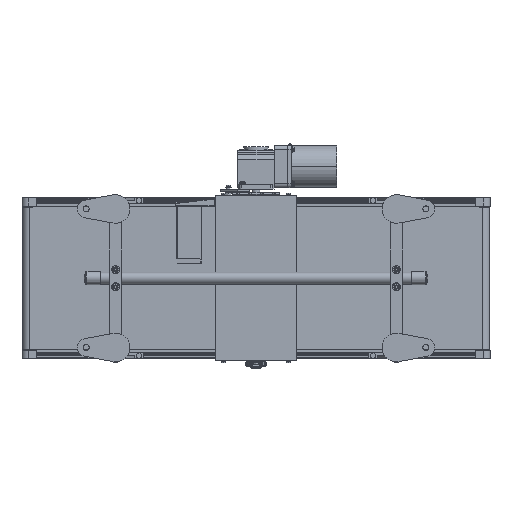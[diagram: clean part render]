
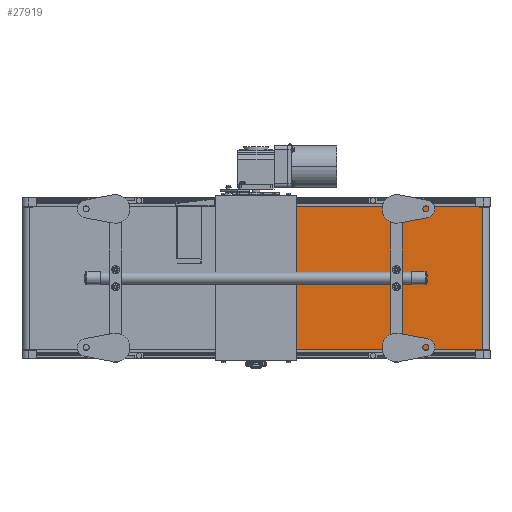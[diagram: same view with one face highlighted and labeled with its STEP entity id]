
A CAD part, front view. The second image highlights one B-rep face of the part: STEP entity #27919.
In plain terms, the highlighted planar face has unit normal (0.012, -1, 0).
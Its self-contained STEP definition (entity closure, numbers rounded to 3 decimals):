
#1108 = CARTESIAN_POINT ( 'NONE',  ( 555.145, -33.222, -153. ) ) ;
#3079 = VECTOR ( 'NONE', #45129, 1000. ) ;
#3723 = VECTOR ( 'NONE', #66191, 1000. ) ;
#6466 = LINE ( 'NONE', #39592, #3079 ) ;
#10209 = ORIENTED_EDGE ( 'NONE', *, *, #10532, .F. ) ;
#10532 = EDGE_CURVE ( 'NONE', #26935, #20700, #43882, .T. ) ;
#12324 = ORIENTED_EDGE ( 'NONE', *, *, #68090, .T. ) ;
#14224 = CARTESIAN_POINT ( 'NONE',  ( 984.674, -28.099, -153. ) ) ;
#15071 = CARTESIAN_POINT ( 'NONE',  ( 555.145, -33.222, -153. ) ) ;
#19821 = DIRECTION ( 'NONE',  ( -1., -0.012, 0. ) ) ;
#20700 = VERTEX_POINT ( 'NONE', #28572 ) ;
#22908 = ORIENTED_EDGE ( 'NONE', *, *, #57997, .T. ) ;
#24672 = VECTOR ( 'NONE', #61155, 1000. ) ;
#25964 = CARTESIAN_POINT ( 'NONE',  ( 984.674, -28.099, 153. ) ) ;
#26935 = VERTEX_POINT ( 'NONE', #15071 ) ;
#27919 = ADVANCED_FACE ( 'NONE', ( #31946 ), #46117, .F. ) ;
#27967 = VECTOR ( 'NONE', #37855, 1000. ) ;
#28572 = CARTESIAN_POINT ( 'NONE',  ( 555.145, -33.222, 153. ) ) ;
#30142 = ORIENTED_EDGE ( 'NONE', *, *, #42240, .F. ) ;
#31946 = FACE_OUTER_BOUND ( 'NONE', #53036, .T. ) ;
#37855 = DIRECTION ( 'NONE',  ( 0., 0., 1. ) ) ;
#39592 = CARTESIAN_POINT ( 'NONE',  ( 984.674, -28.099, 153. ) ) ;
#40565 = DIRECTION ( 'NONE',  ( -0.012, 1., 0. ) ) ;
#42240 = EDGE_CURVE ( 'NONE', #59366, #26935, #52093, .T. ) ;
#43882 = LINE ( 'NONE', #1108, #24672 ) ;
#45129 = DIRECTION ( 'NONE',  ( -1., -0.012, 0. ) ) ;
#46117 = PLANE ( 'NONE',  #61178 ) ;
#52093 = LINE ( 'NONE', #61268, #3723 ) ;
#53036 = EDGE_LOOP ( 'NONE', ( #12324, #10209, #30142, #22908 ) ) ;
#57743 = VERTEX_POINT ( 'NONE', #25964 ) ;
#57997 = EDGE_CURVE ( 'NONE', #59366, #57743, #60643, .T. ) ;
#59336 = CARTESIAN_POINT ( 'NONE',  ( 984.674, -28.099, -153. ) ) ;
#59366 = VERTEX_POINT ( 'NONE', #59588 ) ;
#59588 = CARTESIAN_POINT ( 'NONE',  ( 984.674, -28.099, -153. ) ) ;
#60643 = LINE ( 'NONE', #59336, #27967 ) ;
#61155 = DIRECTION ( 'NONE',  ( 0., 0., 1. ) ) ;
#61178 = AXIS2_PLACEMENT_3D ( 'NONE', #14224, #40565, #19821 ) ;
#61268 = CARTESIAN_POINT ( 'NONE',  ( 984.674, -28.099, -153. ) ) ;
#66191 = DIRECTION ( 'NONE',  ( -1., -0.012, 0. ) ) ;
#68090 = EDGE_CURVE ( 'NONE', #57743, #20700, #6466, .T. ) ;
